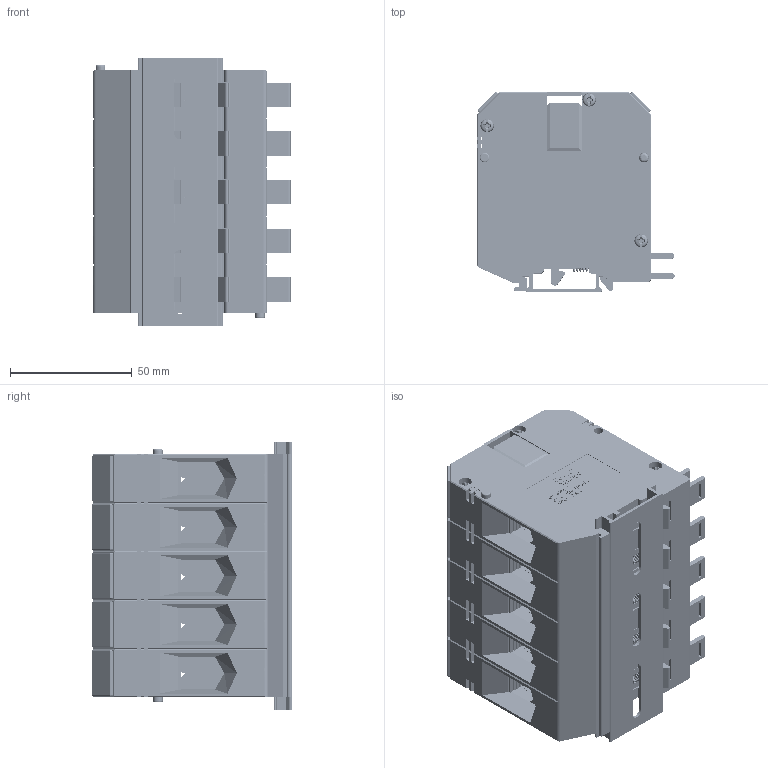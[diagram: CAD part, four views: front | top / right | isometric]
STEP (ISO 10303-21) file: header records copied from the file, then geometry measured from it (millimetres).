
FILE_DESCRIPTION((''),'2;1');
FILE_NAME('ASM0002_ASM','2016-06-13T',('Administrator'),(''),'PRO/ENGINEER BY PARAMETRIC TECHNOLOGY CORPORATION, 2012360','PRO/ENGINEER BY PARAMETRIC TECHNOLOGY CORPORATION, 2012360','');
FILE_SCHEMA(('CONFIG_CONTROL_DESIGN'));
Products named in the file (1): ASM0002_ASM
Bounding box: 81.09 x 82.09 x 110 mm (x, y, z)
Volume: 218488.7 mm3; surface area: 251450.7 mm2
Topology: 1 solids, 164 shells, 19350 faces, 56166 edges, 37128 vertices
Faces by surface type: plane 13206, cylinder 4112, bspline 1439, cone 232, torus 164, sphere 100, extrusion 97
Entity records: 826647 total; most frequent: CARTESIAN_POINT 331162, ORIENTED_EDGE 112332, DIRECTION 88649, EDGE_CURVE 56166, VECTOR 43169, LINE 43072, VERTEX_POINT 37128, AXIS2_PLACEMENT_3D 22740
